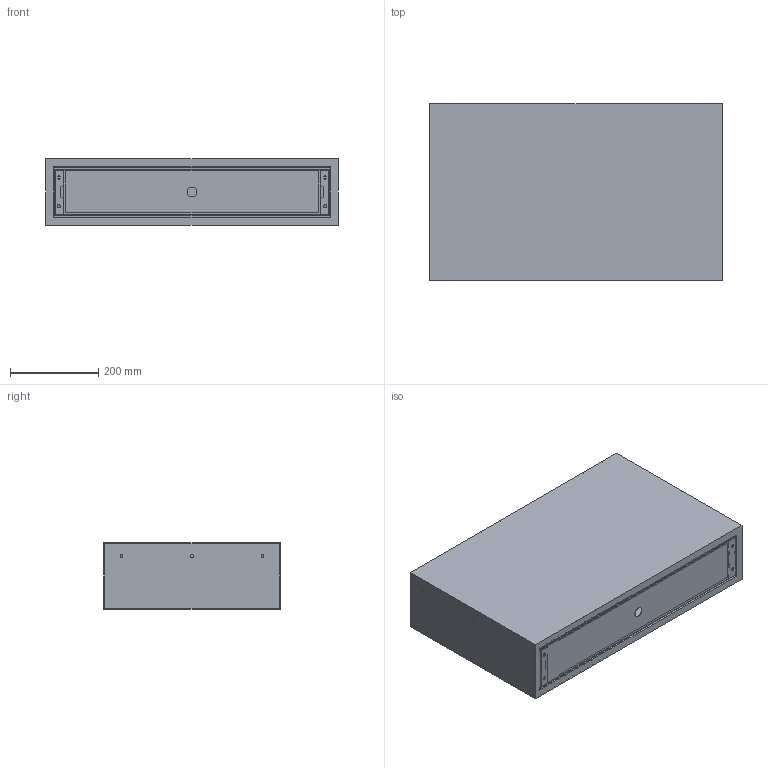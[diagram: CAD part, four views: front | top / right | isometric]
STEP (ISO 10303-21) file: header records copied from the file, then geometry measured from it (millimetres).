
FILE_DESCRIPTION(/* description */ ('STEP AP242 Edition 2','CAx-IF Rec.Pracs.---Representation and Presentation of Product Manufacturing Information (PMI)---4.0---2014-10-13','CAx-IF Rec.Pracs.---3D Tessellated Geometry---0.4---2014-09-14','2;1','CAx-IF Rec.Pracs.---User Defined Attributes---1.5---2016-08-15'),/* implementation_level */ '2;1');
FILE_NAME(/* name */ '6a16d77ae054ca3c19cba2ea',/* time_stamp */ '2026-05-27T11:37:31Z',/* author */ (''),/* organization */ (''),/* preprocessor_version */ 'ST-DEVELOPER v20',/* originating_system */ 'ONSHAPE BY PTC INC, 1.215',/* authorisation */ ' ');
FILE_SCHEMA (('AP242_MANAGED_MODEL_BASED_3D_ENGINEERING_MIM_LF { 1 0 10303 442 3 1 4 }'));
Length unit declared in the file: millimetre
Products named in the file (19): 700; Part 10; Part 4; Part 1; Part 5; Part 7; Part 9; Part 6; Part 3; Part 2; 112 350 assembly-Mirrored <1>; 112 350 assembly <1>; Part 8
Assembly tree (20 placements, depth 3):
  700
    Part 10
    Part 4
    Part 1
    Part 5
    Part 7
    Part 9
    Part 6
    Part 3
    Part 2
    112 350 assembly-Mirrored <1>
      Part 1
      Part 1
      Part 2
      Part 3
    112 350 assembly <1>
      Part 1
      Part 1
      Part 3
      Part 2
    Part 8
Bounding box: 662 x 400 x 150 mm (x, y, z)
Volume: 8209148.4 mm3; surface area: 4431449.7 mm2
Topology: 18 solids, 18 shells, 775 faces, 2104 edges, 1373 vertices
Faces by surface type: plane 418, cylinder 299, torus 40, bspline 14, sphere 4
Full cylindrical faces by diameter (mm): 4 x8, 4.4 x4, 4.45 x4, 4.5 x6, 4.9 x2, 5.1 x2, 5.15 x2, 6 x4, 6.4 x4, 22 x1
Entity records: 23664 total; most frequent: CARTESIAN_POINT 4682, DIRECTION 3851, ORIENTED_EDGE 3786, EDGE_CURVE 1893, LINE 1301, VECTOR 1301, AXIS2_PLACEMENT_3D 1275, VERTEX_POINT 1266
